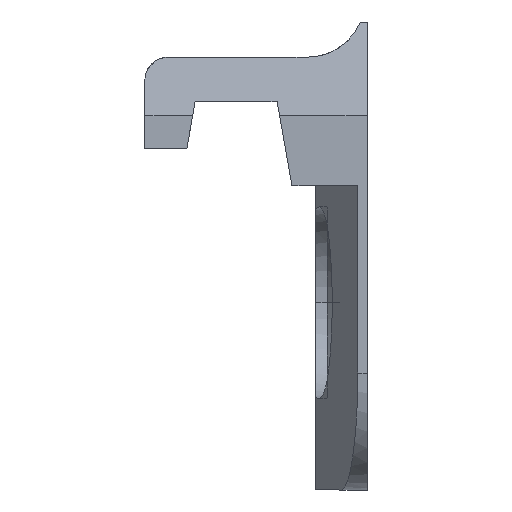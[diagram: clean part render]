
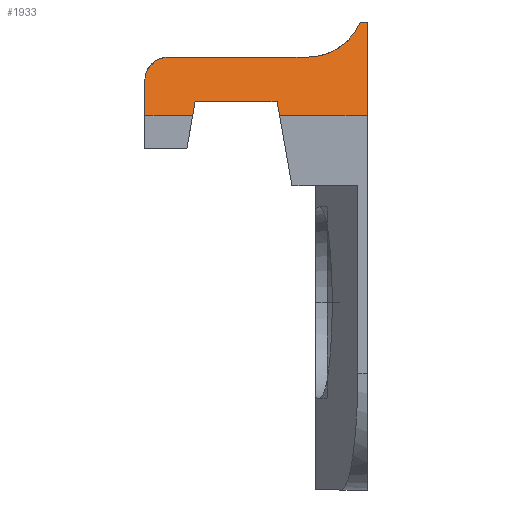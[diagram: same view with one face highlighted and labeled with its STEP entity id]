
A CAD part, front view. The second image highlights one B-rep face of the part: STEP entity #1933.
In plain terms, the highlighted planar face has unit normal (0, -0.574, 0.819).
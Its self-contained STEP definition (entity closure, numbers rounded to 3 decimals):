
#221 = AXIS2_PLACEMENT_3D ( 'NONE', #1274, #1277, #1278 ) ;
#452 = EDGE_CURVE ( 'NONE', #3313, #3200, #2641, .T. ) ;
#471 = EDGE_CURVE ( 'NONE', #3436, #3277, #2622, .T. ) ;
#475 = EDGE_CURVE ( 'NONE', #3277, #3287, #2620, .T. ) ;
#477 = EDGE_CURVE ( 'NONE', #3200, #3242, #2618, .T. ) ;
#480 = EDGE_CURVE ( 'NONE', #3242, #3220, #3070, .T. ) ;
#483 = EDGE_CURVE ( 'NONE', #3220, #3163, #2588, .T. ) ;
#486 = EDGE_CURVE ( 'NONE', #3163, #3436, #3074, .T. ) ;
#489 = EDGE_CURVE ( 'NONE', #3343, #3250, #2570, .T. ) ;
#491 = EDGE_CURVE ( 'NONE', #3287, #3370, #2565, .T. ) ;
#497 = EDGE_CURVE ( 'NONE', #3370, #3343, #2576, .T. ) ;
#513 = EDGE_CURVE ( 'NONE', #3250, #3313, #1834, .T. ) ;
#749 = CARTESIAN_POINT ( 'NONE',  ( 0., 414.588, 320.354 ) ) ;
#750 = DIRECTION ( 'NONE',  ( 0., 0.819, 0.574 ) ) ;
#804 = CARTESIAN_POINT ( 'NONE',  ( -9.5, 412.051, 318.578 ) ) ;
#805 = DIRECTION ( 'NONE',  ( 0., -0.819, -0.574 ) ) ;
#810 = CARTESIAN_POINT ( 'NONE',  ( -8.5, -31.5, 8. ) ) ;
#812 = CARTESIAN_POINT ( 'NONE',  ( -0.3, -25.787, 12. ) ) ;
#813 = DIRECTION ( 'NONE',  ( 1., 0., 0. ) ) ;
#817 = DIRECTION ( 'NONE',  ( -1., 0., 0. ) ) ;
#820 = CARTESIAN_POINT ( 'NONE',  ( -0.3, -25.787, 12. ) ) ;
#823 = CARTESIAN_POINT ( 'NONE',  ( -8.5, -27.93, 10.5 ) ) ;
#824 = CARTESIAN_POINT ( 'NONE',  ( -0.679, -27.124, 11.064 ) ) ;
#825 = CARTESIAN_POINT ( 'NONE',  ( -1.515, -27.93, 10.5 ) ) ;
#826 = CARTESIAN_POINT ( 'NONE',  ( -2.525, -27.93, 10.5 ) ) ;
#832 = DIRECTION ( 'NONE',  ( -1., 0., 0. ) ) ;
#835 = CARTESIAN_POINT ( 'NONE',  ( -8.5, -27.93, 10.5 ) ) ;
#838 = CARTESIAN_POINT ( 'NONE',  ( -3.85, -30.643, 8.6 ) ) ;
#839 = CARTESIAN_POINT ( 'NONE',  ( -9.086, -27.93, 10.5 ) ) ;
#840 = CARTESIAN_POINT ( 'NONE',  ( -9.5, -28.521, 10.086 ) ) ;
#841 = CARTESIAN_POINT ( 'NONE',  ( -9.5, -29.358, 9.5 ) ) ;
#846 = CARTESIAN_POINT ( 'NONE',  ( -57.856, 406.772, 314.882 ) ) ;
#847 = DIRECTION ( 'NONE',  ( 0.101, -0.815, -0.571 ) ) ;
#850 = CARTESIAN_POINT ( 'NONE',  ( 46.869, 408.499, 316.09 ) ) ;
#851 = DIRECTION ( 'NONE',  ( 0.101, 0.815, 0.571 ) ) ;
#863 = DIRECTION ( 'NONE',  ( 1., 0., 0. ) ) ;
#888 = CARTESIAN_POINT ( 'NONE',  ( -8.5, -31.5, 8. ) ) ;
#899 = DIRECTION ( 'NONE',  ( 1., 0., 0. ) ) ;
#1274 = CARTESIAN_POINT ( 'NONE',  ( -8.5, -31.5, 8. ) ) ;
#1275 = PLANE ( 'NONE',  #221 ) ;
#1277 = DIRECTION ( 'NONE',  ( 0., 0.574, -0.819 ) ) ;
#1278 = DIRECTION ( 'NONE',  ( 0., 0.819, 0.574 ) ) ;
#1373 = CARTESIAN_POINT ( 'NONE',  ( -8.5, -27.93, 10.5 ) ) ;
#1383 = CARTESIAN_POINT ( 'NONE',  ( 0., -25.787, 12. ) ) ;
#1388 = CARTESIAN_POINT ( 'NONE',  ( -2.525, -27.93, 10.5 ) ) ;
#1393 = CARTESIAN_POINT ( 'NONE',  ( -0.3, -25.787, 12. ) ) ;
#1395 = CARTESIAN_POINT ( 'NONE',  ( -3.744, -31.5, 8. ) ) ;
#1402 = CARTESIAN_POINT ( 'NONE',  ( -9.5, -31.5, 8. ) ) ;
#1404 = CARTESIAN_POINT ( 'NONE',  ( -7.456, -31.5, 8. ) ) ;
#1411 = CARTESIAN_POINT ( 'NONE',  ( 0., -31.5, 8. ) ) ;
#1418 = CARTESIAN_POINT ( 'NONE',  ( -3.85, -30.643, 8.6 ) ) ;
#1425 = CARTESIAN_POINT ( 'NONE',  ( -7.35, -30.643, 8.6 ) ) ;
#1440 = CARTESIAN_POINT ( 'NONE',  ( -9.5, -29.358, 9.5 ) ) ;
#1607 = FACE_OUTER_BOUND ( 'NONE', #2597, .T. ) ;
#1827 = VECTOR ( 'NONE', #899, 1000. ) ;
#1834 = LINE ( 'NONE', #888, #1827 ) ;
#1933 = ADVANCED_FACE ( 'NONE', ( #1607 ), #1275, .F. ) ;
#1964 = ORIENTED_EDGE ( 'NONE', *, *, #477, .T. ) ;
#1965 = ORIENTED_EDGE ( 'NONE', *, *, #452, .T. ) ;
#1966 = ORIENTED_EDGE ( 'NONE', *, *, #513, .T. ) ;
#1967 = ORIENTED_EDGE ( 'NONE', *, *, #489, .T. ) ;
#1968 = ORIENTED_EDGE ( 'NONE', *, *, #497, .T. ) ;
#1969 = ORIENTED_EDGE ( 'NONE', *, *, #491, .T. ) ;
#1970 = ORIENTED_EDGE ( 'NONE', *, *, #475, .T. ) ;
#1971 = ORIENTED_EDGE ( 'NONE', *, *, #471, .T. ) ;
#1972 = ORIENTED_EDGE ( 'NONE', *, *, #486, .T. ) ;
#1973 = ORIENTED_EDGE ( 'NONE', *, *, #483, .T. ) ;
#1974 = ORIENTED_EDGE ( 'NONE', *, *, #480, .T. ) ;
#2551 = VECTOR ( 'NONE', #863, 1000. ) ;
#2564 = VECTOR ( 'NONE', #851, 1000. ) ;
#2565 = LINE ( 'NONE', #850, #2564 ) ;
#2569 = VECTOR ( 'NONE', #847, 1000. ) ;
#2570 = LINE ( 'NONE', #846, #2569 ) ;
#2576 = LINE ( 'NONE', #838, #2551 ) ;
#2583 = VECTOR ( 'NONE', #832, 1000. ) ;
#2588 = LINE ( 'NONE', #823, #2583 ) ;
#2594 = VECTOR ( 'NONE', #817, 1000. ) ;
#2597 = EDGE_LOOP ( 'NONE', ( #1974, #1973, #1972, #1971, #1970, #1969, #1968, #1967, #1966, #1965, #1964 ) ) ;
#2600 = VECTOR ( 'NONE', #813, 1000. ) ;
#2614 = VECTOR ( 'NONE', #805, 1000. ) ;
#2618 = LINE ( 'NONE', #812, #2594 ) ;
#2620 = LINE ( 'NONE', #810, #2600 ) ;
#2622 = LINE ( 'NONE', #804, #2614 ) ;
#2639 = VECTOR ( 'NONE', #750, 1000. ) ;
#2641 = LINE ( 'NONE', #749, #2639 ) ;
#3070 =( BOUNDED_CURVE ( )  B_SPLINE_CURVE ( 3, ( #820, #824, #825, #826 ),
 .UNSPECIFIED., .F., .T. ) 
 B_SPLINE_CURVE_WITH_KNOTS ( ( 4, 4 ),
 ( 5.097, 6.283 ),
 .UNSPECIFIED. ) 
 CURVE ( )  GEOMETRIC_REPRESENTATION_ITEM ( )  RATIONAL_B_SPLINE_CURVE ( ( 1., 0.886, 0.886, 1. ) ) 
 REPRESENTATION_ITEM ( '' )  );
#3074 =( BOUNDED_CURVE ( )  B_SPLINE_CURVE ( 3, ( #835, #839, #840, #841 ),
 .UNSPECIFIED., .F., .T. ) 
 B_SPLINE_CURVE_WITH_KNOTS ( ( 4, 4 ),
 ( 3.142, 4.712 ),
 .UNSPECIFIED. ) 
 CURVE ( )  GEOMETRIC_REPRESENTATION_ITEM ( )  RATIONAL_B_SPLINE_CURVE ( ( 1., 0.805, 0.805, 1. ) ) 
 REPRESENTATION_ITEM ( '' )  );
#3163 = VERTEX_POINT ( 'NONE', #1373 ) ;
#3200 = VERTEX_POINT ( 'NONE', #1383 ) ;
#3220 = VERTEX_POINT ( 'NONE', #1388 ) ;
#3242 = VERTEX_POINT ( 'NONE', #1393 ) ;
#3250 = VERTEX_POINT ( 'NONE', #1395 ) ;
#3277 = VERTEX_POINT ( 'NONE', #1402 ) ;
#3287 = VERTEX_POINT ( 'NONE', #1404 ) ;
#3313 = VERTEX_POINT ( 'NONE', #1411 ) ;
#3343 = VERTEX_POINT ( 'NONE', #1418 ) ;
#3370 = VERTEX_POINT ( 'NONE', #1425 ) ;
#3436 = VERTEX_POINT ( 'NONE', #1440 ) ;
